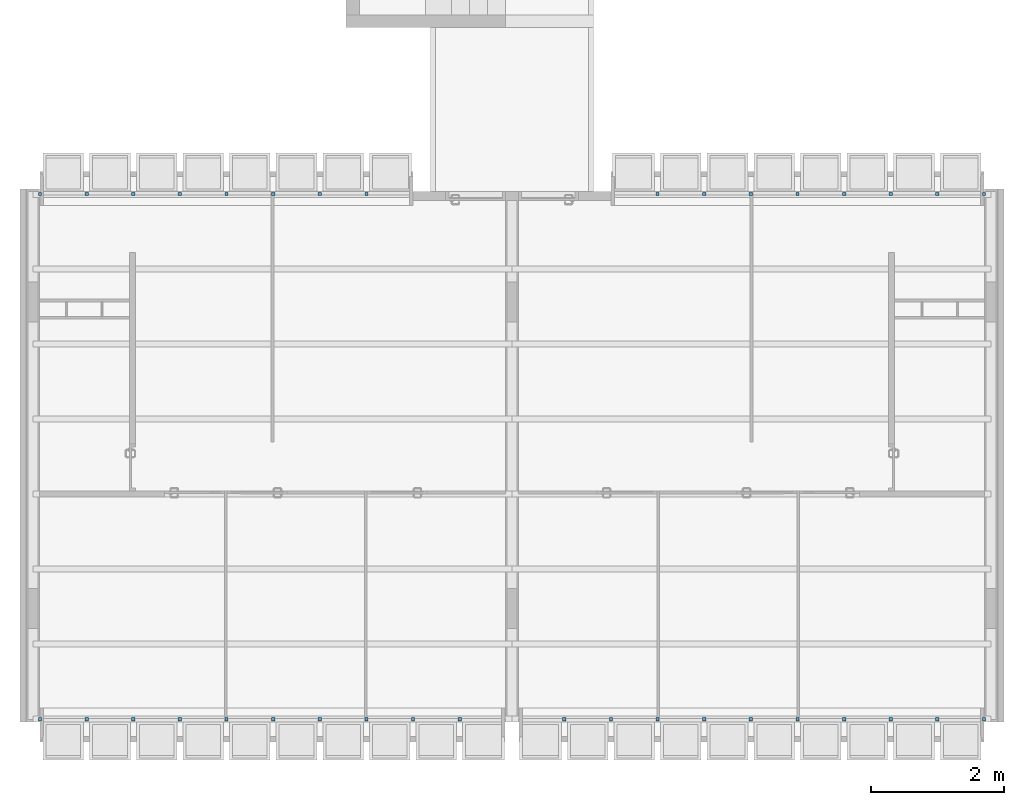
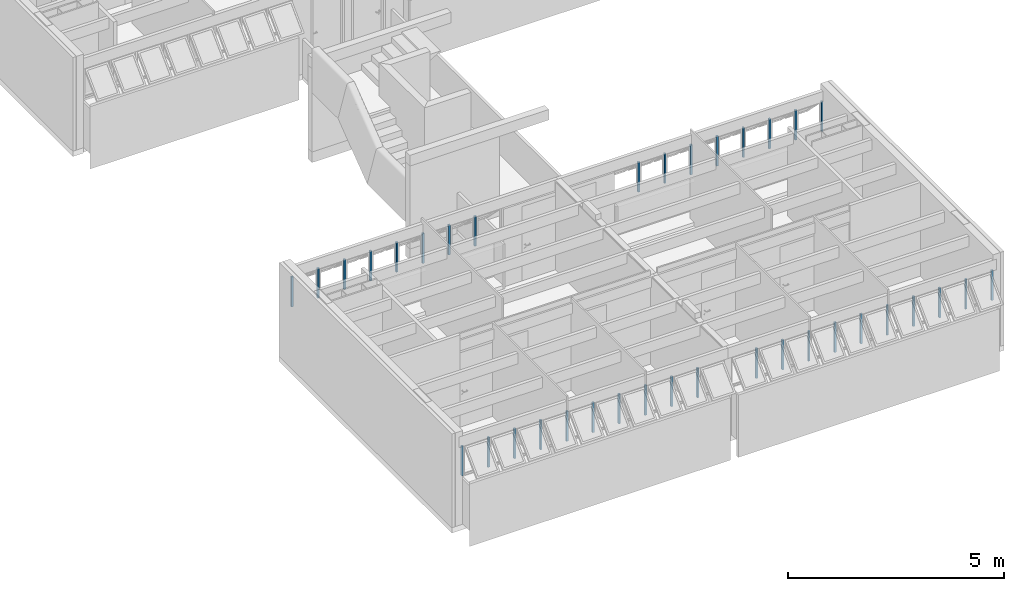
# One storey, part 2 of 37: 36 members, 4 elements without a shape of their own.
"""IFC2X3 building model written with IfcOpenShell, lengths in millimetres."""

import ifcopenshell
import ifcopenshell.guid

model = None  # the IFC model being written
_history = None  # IfcOwnerHistory: only IFC2X3 demands one
_inside = {}  # id of a spatial element -> (the spatial element, [elements in it])
_under = {}  # id of a project, library or spatial element -> (it, [spatial elements below it])
_declared = {}  # id of a project -> (the project, [libraries it declares])
_typed = {}  # id of a type object -> (the type object, [elements of that type])
_made_of = {}  # id of a material, layer set ... -> (it, [elements and type objects made of it])


def new_model(schema):
    """Start an empty IFC model of exactly this schema.

    Asked for "IFC4X3", IfcOpenShell would pick the latest addendum, in which some entities
    have other attributes; the version numbers below select the first issue.
    IFC2X3 requires an IfcOwnerHistory on every rooted entity: one is made here for all.
    """
    global model, _history
    if schema == "IFC4X3":
        model = ifcopenshell.file(schema_version=(4, 3, 0, 0))
    else:
        model = ifcopenshell.file(schema=schema)
    _inside.clear()
    _under.clear()
    _declared.clear()
    _typed.clear()
    _made_of.clear()
    _history = None
    if model.schema == "IFC2X3":
        org = make("IfcOrganization", Name="unknown")
        user = make(
            "IfcPersonAndOrganization",
            ThePerson=make("IfcPerson", FamilyName="unknown"),
            TheOrganization=org,
        )
        app = make(
            "IfcApplication",
            ApplicationDeveloper=org,
            Version="unknown",
            ApplicationFullName="unknown",
            ApplicationIdentifier="unknown",
        )
        _history = make(
            "IfcOwnerHistory",
            OwningUser=user,
            OwningApplication=app,
            ChangeAction="ADDED",
            CreationDate=0,
        )
    return model


def make(cls, **values):
    """One entity of the class cls with the attributes given. An attribute that is None is left unset."""
    return model.create_entity(
        cls, **{name: value for name, value in values.items() if value is not None}
    )


def entity(cls, *values):
    """Any entity or typed value of the class cls, its attributes in the order of the schema. None: left unset."""
    e = model.create_entity(cls)
    for i, value in enumerate(values):
        if value is not None:
            e[i] = value
    return e


def rooted(cls, **values):
    """An entity with a GlobalId (a new one), such as an element, a storey or a relation."""
    return make(cls, GlobalId=ifcopenshell.guid.new(), OwnerHistory=_history, **values)


def si_unit(unit_type, name, prefix=None):
    """IfcSIUnit, for example si_unit("LENGTHUNIT", "METRE", prefix="MILLI")."""
    return make("IfcSIUnit", UnitType=unit_type, Prefix=prefix, Name=name)


def converted_unit(unit_type, name, factor, base, dimensions=None, offset=None):
    """IfcConversionBasedUnit, such as the inch: factor (a typed value) times the base unit."""
    return make(
        "IfcConversionBasedUnit"
        if offset is None
        else "IfcConversionBasedUnitWithOffset",
        ConversionOffset=offset,
        Dimensions=None
        if dimensions is None
        else entity("IfcDimensionalExponents", *dimensions),
        UnitType=unit_type,
        Name=name,
        ConversionFactor=make(
            "IfcMeasureWithUnit", ValueComponent=factor, UnitComponent=base
        ),
    )


def derived_unit(unit_type, elements):
    """IfcDerivedUnit: a product of units, each with its exponent."""
    return make(
        "IfcDerivedUnit",
        Elements=[
            make("IfcDerivedUnitElement", Unit=unit, Exponent=power)
            for unit, power in elements
        ],
        UnitType=unit_type,
    )


def money_unit(currency):
    """IfcMonetaryUnit."""
    return make("IfcMonetaryUnit", Currency=currency)


def assignment(units):
    """IfcUnitAssignment: the units of a project."""
    return None if units is None else make("IfcUnitAssignment", Units=units)


def point(xyz):
    """IfcCartesianPoint."""
    return None if xyz is None else make("IfcCartesianPoint", Coordinates=xyz)


def direction(xyz):
    """IfcDirection."""
    return None if xyz is None else make("IfcDirection", DirectionRatios=xyz)


def frame(location, z_axis=None, x_axis=None):
    """IfcAxis2Placement3D, a coordinate frame: its origin and axes. An axis left out is left unset."""
    return make(
        "IfcAxis2Placement3D",
        Location=point(location),
        Axis=direction(z_axis),
        RefDirection=direction(x_axis),
    )


def origin_with_axes():
    """The frame at (0, 0, 0) with the z axis (0, 0, 1) and the x axis (1, 0, 0) written out."""
    return frame((0.0, 0.0, 0.0), z_axis=(0.0, 0.0, 1.0), x_axis=(1.0, 0.0, 0.0))


def place(relative_to, where):
    """IfcLocalPlacement: puts the frame where relative to a parent placement (None: the world)."""
    return make(
        "IfcLocalPlacement", PlacementRelTo=relative_to, RelativePlacement=where
    )


def context(
    kind, dimensions, precision=None, world=None, true_north=None, identifier=None
):
    """IfcGeometricRepresentationContext, for example the 3D "Model" context."""
    return make(
        "IfcGeometricRepresentationContext",
        ContextIdentifier=identifier,
        ContextType=kind,
        CoordinateSpaceDimension=dimensions,
        Precision=precision,
        WorldCoordinateSystem=world,
        TrueNorth=true_north,
    )


def subcontext(parent, identifier, kind, view, scale=None):
    """IfcGeometricRepresentationSubContext, for example "Body" below "Model"."""
    return make(
        "IfcGeometricRepresentationSubContext",
        ContextIdentifier=identifier,
        ContextType=kind,
        ParentContext=parent,
        TargetScale=scale,
        TargetView=view,
    )


def project(units=None, contexts=None):
    """IfcProject with its units and contexts."""
    return rooted(
        "IfcProject",
        Name="project",
        RepresentationContexts=contexts,
        UnitsInContext=assignment(units),
    )


def spatial(cls, under=None, at=None, **own):
    """A site, building, storey or space (cls), placed at a placement, below another one or the project."""
    s = rooted(cls, ObjectPlacement=at, **own)
    if under is not None:
        _under.setdefault(under.id(), (under, []))[1].append(s)
    return s


def polyline(points):
    """IfcPolyline through the points."""
    return make("IfcPolyline", Points=[point(p) for p in points])


def outline(outer, holes=None, kind="AREA"):
    """IfcArbitraryClosedProfileDef: a profile drawn as a closed curve; with holes, ...WithVoids."""
    if holes is None:
        return make("IfcArbitraryClosedProfileDef", ProfileType=kind, OuterCurve=outer)
    return make(
        "IfcArbitraryProfileDefWithVoids",
        ProfileType=kind,
        OuterCurve=outer,
        InnerCurves=holes,
    )


def extrude(swept, where, along, depth):
    """IfcExtrudedAreaSolid: the profile swept, set in the frame where, extruded along a direction by depth."""
    return make(
        "IfcExtrudedAreaSolid",
        SweptArea=swept,
        Position=where,
        ExtrudedDirection=direction(along),
        Depth=depth,
    )


def shape(context_of_items, identifier, shape_type, items):
    """IfcShapeRepresentation: the items that make up one representation, for example the "Body"."""
    return make(
        "IfcShapeRepresentation",
        ContextOfItems=context_of_items,
        RepresentationIdentifier=identifier,
        RepresentationType=shape_type,
        Items=items,
    )


def material(Name=None, Category=None):
    """IfcMaterial."""
    return make("IfcMaterial", Name=Name, Category=Category)


def made_of(thing, what):
    """Note that an element or type object is made of a material, layer set ...; save() writes the relation."""
    if what is not None:
        _made_of.setdefault(what.id(), (what, []))[1].append(thing)
    return thing


def type_object(cls, material=None, **own):
    """A type object (cls), such as IfcWallType, which elements share."""
    return made_of(rooted(cls, **own), material)


def element(
    cls,
    number,
    at=None,
    inside=None,
    cuts=None,
    type_object=None,
    material=None,
    context=None,
    identifier="Body",
    shape_type=None,
    held_by="IfcProductDefinitionShape",
    body=None,
    shapes=None,
    **own,
):
    """One element of the class cls, such as IfcWall. Its Tag is "e" and its number.

    at: its placement. inside: the storey or other place that contains it. cuts: it is an
    opening in that element (IfcRelVoidsElement). A single representation is given by context,
    identifier, shape_type and body (its items); several are given by shapes. held_by: the class
    of the entity that holds the representations. save() writes the other relations.
    """
    e = rooted(cls, Tag="e%d" % number, ObjectPlacement=at, **own)
    if body is not None:
        shapes = [shape(context, identifier, shape_type, body)]
    if shapes is not None:
        e.Representation = make(held_by, Representations=shapes)
    if inside is not None:
        _inside.setdefault(inside.id(), (inside, []))[1].append(e)
    if cuts is not None:
        rooted(
            "IfcRelVoidsElement", RelatingBuildingElement=cuts, RelatedOpeningElement=e
        )
    if type_object is not None:
        _typed.setdefault(type_object.id(), (type_object, []))[1].append(e)
    return made_of(e, material)


def aggregate(whole, parts):
    """IfcRelAggregates: a whole, such as a stair, and the parts it consists of."""
    return rooted("IfcRelAggregates", RelatingObject=whole, RelatedObjects=parts)


def save(model, path):
    """Write the relations noted so far, then the file.

    IfcRelAggregates (storeys below a building ...), IfcRelContainedInSpatialStructure (elements
    in a storey), IfcRelDefinesByType, IfcRelAssociatesMaterial and IfcRelDeclares: one each for
    every whole, place, type object, material and project.
    """
    for whole, parts in _under.values():
        aggregate(whole, parts)
    for where, things in _inside.values():
        rooted(
            "IfcRelContainedInSpatialStructure",
            RelatedElements=things,
            RelatingStructure=where,
        )
    for kind, things in _typed.values():
        rooted("IfcRelDefinesByType", RelatedObjects=things, RelatingType=kind)
    for what, things in _made_of.values():
        rooted("IfcRelAssociatesMaterial", RelatedObjects=things, RelatingMaterial=what)
    for by, libraries in _declared.values():
        rooted("IfcRelDeclares", RelatingContext=by, RelatedDefinitions=libraries)
    model.write(path)


model = new_model("IFC2X3")

# Units and contexts
model_context = context("Model", 3, precision=0.01, world=origin_with_axes(), true_north=direction((0.0, 1.0)))
body_context = subcontext(model_context, "Body", "Model", "MODEL_VIEW")
ifc_project = project(units=[si_unit("LENGTHUNIT", "METRE", prefix="MILLI"), si_unit("AREAUNIT", "SQUARE_METRE"), si_unit("VOLUMEUNIT", "CUBIC_METRE"), converted_unit("PLANEANGLEUNIT", "DEGREE", entity("IfcPlaneAngleMeasure", 0.0174532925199), si_unit("PLANEANGLEUNIT", "RADIAN"), dimensions=[0, 0, 0, 0, 0, 0, 0]), money_unit("USD"), converted_unit("TIMEUNIT", "Year", entity("IfcTimeMeasure", 31556926.0), si_unit("TIMEUNIT", "SECOND"), dimensions=[0, 0, 1, 0, 0, 0, 0]), si_unit("MASSUNIT", "GRAM", prefix="KILO"), si_unit("THERMODYNAMICTEMPERATUREUNIT", "DEGREE_CELSIUS"), si_unit("LUMINOUSINTENSITYUNIT", "LUMEN"), si_unit("ENERGYUNIT", "JOULE", prefix="MEGA"), derived_unit("THERMALCONDUCTANCEUNIT", [(si_unit("POWERUNIT", "WATT"), 1), (si_unit("LENGTHUNIT", "METRE"), -1), (si_unit("THERMODYNAMICTEMPERATUREUNIT", "KELVIN"), -1)]), derived_unit("SPECIFICHEATCAPACITYUNIT", [(si_unit("ENERGYUNIT", "JOULE"), 1), (si_unit("MASSUNIT", "GRAM", prefix="KILO"), -1), (si_unit("THERMODYNAMICTEMPERATUREUNIT", "KELVIN"), -1)]), derived_unit("MASSDENSITYUNIT", [(si_unit("MASSUNIT", "GRAM", prefix="KILO"), 1), (si_unit("VOLUMEUNIT", "CUBIC_METRE"), -1)])], contexts=[model_context])

# Site, building, storey
site_placement = place(None, origin_with_axes())
site = spatial("IfcSite", under=ifc_project, at=site_placement, Name="Local", CompositionType="ELEMENT")
building_placement = place(site_placement, origin_with_axes())
building = spatial("IfcBuilding", under=site, at=building_placement, Name="Construção", CompositionType="ELEMENT")
storey_placement = place(building_placement, origin_with_axes())
storey = spatial("IfcBuildingStorey", under=building, at=storey_placement, Name="Primeiro Pavimento", CompositionType="ELEMENT", Elevation=0.0)

# Window, members
window_style = type_object("IfcWindowStyle", Name="Tipo de Parede Cortina", ConstructionType="NOTDEFINED", OperationType="NOTDEFINED", ParameterTakesPrecedence=False, Sizeable=False)
window_1_placement = place(storey_placement, frame((12020.0, 8250.0, 1355.00007107), z_axis=(0.0, 0.0, 1.0), x_axis=(1.0, 0.0, 0.0)))
window_1 = element("IfcWindow", 1, at=window_1_placement, inside=storey, type_object=window_style, Name="APTO2-JANELA-000")
ifc_material = material(Name="Alumínio")
member_type = type_object("IfcMemberType", Name="Montante 50 x 50", PredefinedType="MULLION")
member_1_placement = place(window_1_placement, frame((-1050.0, 0.0, 0.0), z_axis=(0.0, 0.0, 1.0), x_axis=(1.0, 0.0, 0.0)))
member_1 = element("IfcMember", 2, at=member_1_placement, type_object=member_type, material=ifc_material, Name="APTO2-PC-Est-Mnt-430", context=body_context, shape_type="SweptSolid", body=[
    extrude(outline(polyline([(25.0, -50.0), (25.0, 0.0), (-25.0, 0.0), (-25.0, -50.0), (25.0, -50.0)])), origin_with_axes(), (0.0, 0.0, 1.0), 844.999891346),
])
member_2_placement = place(window_1_placement, frame((-1750.0, 0.0, 0.0), z_axis=(0.0, 0.0, 1.0), x_axis=(1.0, 0.0, 0.0)))
member_2 = element("IfcMember", 3, at=member_2_placement, type_object=member_type, material=ifc_material, Name="APTO2-PC-Est-Mnt-485", context=body_context, shape_type="SweptSolid", body=[
    extrude(outline(polyline([(25.0, -50.0), (25.0, 0.0), (-25.0, 0.0), (-25.0, -50.0), (25.0, -50.0)])), origin_with_axes(), (0.0, 0.0, 1.0), 844.999891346),
])
member_3_placement = place(window_1_placement, frame((-2450.0, 0.0, 0.0), z_axis=(0.0, 0.0, 1.0), x_axis=(1.0, 0.0, 0.0)))
member_3 = element("IfcMember", 4, at=member_3_placement, type_object=member_type, material=ifc_material, Name="APTO2-PC-Est-Mnt-486", context=body_context, shape_type="SweptSolid", body=[
    extrude(outline(polyline([(25.0, -50.0), (25.0, 0.0), (-25.0, 0.0), (-25.0, -50.0), (25.0, -50.0)])), origin_with_axes(), (0.0, 0.0, 1.0), 844.999891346),
])
member_4_placement = place(window_1_placement, frame((350.0, 0.0, 0.0), z_axis=(0.0, 0.0, 1.0), x_axis=(1.0, 0.0, 0.0)))
member_4 = element("IfcMember", 5, at=member_4_placement, type_object=member_type, material=ifc_material, Name="APTO2-PC-Est-Mnt-428", context=body_context, shape_type="SweptSolid", body=[
    extrude(outline(polyline([(25.0, -50.0), (25.0, 0.0), (-25.0, 0.0), (-25.0, -50.0), (25.0, -50.0)])), origin_with_axes(), (0.0, 0.0, 1.0), 844.999891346),
])
member_5_placement = place(window_1_placement, frame((2450.0, 0.0, 0.0), z_axis=(0.0, 0.0, 1.0), x_axis=(1.0, 0.0, 0.0)))
member_5 = element("IfcMember", 6, at=member_5_placement, type_object=member_type, material=ifc_material, Name="APTO2-PC-Est-Mnt-560", context=body_context, shape_type="SweptSolid", body=[
    extrude(outline(polyline([(25.0, -50.0), (25.0, 0.0), (-25.0, 0.0), (-25.0, -50.0), (25.0, -50.0)])), origin_with_axes(), (0.0, 0.0, 1.0), 844.999891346),
])
member_6_placement = place(window_1_placement, frame((-350.0, 0.0, 0.0), z_axis=(0.0, 0.0, 1.0), x_axis=(1.0, 0.0, 0.0)))
member_6 = element("IfcMember", 7, at=member_6_placement, type_object=member_type, material=ifc_material, Name="APTO2-PC-Est-Mnt-429", context=body_context, shape_type="SweptSolid", body=[
    extrude(outline(polyline([(25.0, -50.0), (25.0, 0.0), (-25.0, 0.0), (-25.0, -50.0), (25.0, -50.0)])), origin_with_axes(), (0.0, 0.0, 1.0), 844.999891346),
])
member_7_placement = place(window_1_placement, frame((1050.0, 0.0, 0.0), z_axis=(0.0, 0.0, 1.0), x_axis=(1.0, 0.0, 0.0)))
member_7 = element("IfcMember", 8, at=member_7_placement, type_object=member_type, material=ifc_material, Name="APTO2-PC-Est-Mnt-427", context=body_context, shape_type="SweptSolid", body=[
    extrude(outline(polyline([(25.0, -50.0), (25.0, 0.0), (-25.0, 0.0), (-25.0, -50.0), (25.0, -50.0)])), origin_with_axes(), (0.0, 0.0, 1.0), 844.999891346),
])
member_8_placement = place(window_1_placement, frame((1750.0, 0.0, 0.0), z_axis=(0.0, 0.0, 1.0), x_axis=(1.0, 0.0, 0.0)))
member_8 = element("IfcMember", 9, at=member_8_placement, type_object=member_type, material=ifc_material, Name="APTO2-PC-Est-Mnt-426", context=body_context, shape_type="SweptSolid", body=[
    extrude(outline(polyline([(25.0, -50.0), (25.0, 0.0), (-25.0, 0.0), (-25.0, -50.0), (25.0, -50.0)])), origin_with_axes(), (0.0, 0.0, 1.0), 844.999891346),
])
aggregate(window_1, [member_1, member_2, member_3, member_4, member_5, member_6, member_7, member_8])

window_2_placement = place(storey_placement, frame((8520.0, 315.020977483, 1355.02054151), z_axis=(0.0, 0.0, 1.0), x_axis=(1.0, 0.0, 0.0)))
window_2 = element("IfcWindow", 10, at=window_2_placement, inside=storey, type_object=window_style, Name="APTO2-JANELA-001")
member_9_placement = place(window_2_placement, frame((2450.0, 0.0, 0.0), z_axis=(0.0, 0.0, 1.0), x_axis=(1.0, 0.0, 0.0)))
member_9 = element("IfcMember", 11, at=member_9_placement, type_object=member_type, material=ifc_material, Name="APTO2-PC-Est-Mnt-430", context=body_context, shape_type="SweptSolid", body=[
    extrude(outline(polyline([(25.0, 50.0), (-25.0, 50.0), (-25.0, 0.0), (25.0, 0.0), (25.0, 50.0)])), origin_with_axes(), (0.0, 0.0, 1.0), 844.999928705),
])
member_10_placement = place(window_2_placement, frame((1750.0, 0.0, 0.0), z_axis=(0.0, 0.0, 1.0), x_axis=(1.0, 0.0, 0.0)))
member_10 = element("IfcMember", 12, at=member_10_placement, type_object=member_type, material=ifc_material, Name="APTO2-PC-Est-Mnt-485", context=body_context, shape_type="SweptSolid", body=[
    extrude(outline(polyline([(25.0, 50.0), (-25.0, 50.0), (-25.0, 0.0), (25.0, 0.0), (25.0, 50.0)])), origin_with_axes(), (0.0, 0.0, 1.0), 844.999928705),
])
member_11_placement = place(window_2_placement, frame((1050.0, 0.0, 0.0), z_axis=(0.0, 0.0, 1.0), x_axis=(1.0, 0.0, 0.0)))
member_11 = element("IfcMember", 13, at=member_11_placement, type_object=member_type, material=ifc_material, Name="APTO2-PC-Est-Mnt-486", context=body_context, shape_type="SweptSolid", body=[
    extrude(outline(polyline([(25.0, 50.0), (-25.0, 50.0), (-25.0, 0.0), (25.0, 0.0), (25.0, 50.0)])), origin_with_axes(), (0.0, 0.0, 1.0), 844.999928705),
])
member_12_placement = place(window_2_placement, frame((3850.0, 0.0, 0.0), z_axis=(0.0, 0.0, 1.0), x_axis=(1.0, 0.0, 0.0)))
member_12 = element("IfcMember", 14, at=member_12_placement, type_object=member_type, material=ifc_material, Name="APTO2-PC-Est-Mnt-428", context=body_context, shape_type="SweptSolid", body=[
    extrude(outline(polyline([(25.0, 50.0), (-25.0, 50.0), (-25.0, 0.0), (25.0, 0.0), (25.0, 50.0)])), origin_with_axes(), (0.0, 0.0, 1.0), 844.999928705),
])
member_13_placement = place(window_2_placement, frame((350.0, 0.0, 0.0), z_axis=(0.0, 0.0, 1.0), x_axis=(1.0, 0.0, 0.0)))
member_13 = element("IfcMember", 15, at=member_13_placement, type_object=member_type, material=ifc_material, Name="APTO2-PC-Est-Mnt-487", context=body_context, shape_type="SweptSolid", body=[
    extrude(outline(polyline([(25.0, 50.0), (-25.0, 50.0), (-25.0, 0.0), (25.0, 0.0), (25.0, 50.0)])), origin_with_axes(), (0.0, 0.0, 1.0), 844.999928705),
])
member_14_placement = place(window_2_placement, frame((-350.0, 0.0, 0.0), z_axis=(0.0, 0.0, 1.0), x_axis=(1.0, 0.0, 0.0)))
member_14 = element("IfcMember", 16, at=member_14_placement, type_object=member_type, material=ifc_material, Name="APTO2-PC-Est-Mnt-488", context=body_context, shape_type="SweptSolid", body=[
    extrude(outline(polyline([(25.0, 50.0), (-25.0, 50.0), (-25.0, 0.0), (25.0, 0.0), (25.0, 50.0)])), origin_with_axes(), (0.0, 0.0, 1.0), 844.999928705),
])
member_15_placement = place(window_2_placement, frame((5950.0, 0.0, 0.0), z_axis=(0.0, 0.0, 1.0), x_axis=(1.0, 0.0, 0.0)))
member_15 = element("IfcMember", 17, at=member_15_placement, type_object=member_type, material=ifc_material, Name="APTO2-PC-Est-Mnt-522", context=body_context, shape_type="SweptSolid", body=[
    extrude(outline(polyline([(25.0, 50.0), (-25.0, 50.0), (-25.0, 0.0), (25.0, 0.0), (25.0, 50.0)])), origin_with_axes(), (0.0, 0.0, 1.0), 844.999928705),
])
member_16_placement = place(window_2_placement, frame((3150.0, 0.0, 0.0), z_axis=(0.0, 0.0, 1.0), x_axis=(1.0, 0.0, 0.0)))
member_16 = element("IfcMember", 18, at=member_16_placement, type_object=member_type, material=ifc_material, Name="APTO2-PC-Est-Mnt-429", context=body_context, shape_type="SweptSolid", body=[
    extrude(outline(polyline([(25.0, 50.0), (-25.0, 50.0), (-25.0, 0.0), (25.0, 0.0), (25.0, 50.0)])), origin_with_axes(), (0.0, 0.0, 1.0), 844.999928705),
])
member_17_placement = place(window_2_placement, frame((4550.0, 0.0, 0.0), z_axis=(0.0, 0.0, 1.0), x_axis=(1.0, 0.0, 0.0)))
member_17 = element("IfcMember", 19, at=member_17_placement, type_object=member_type, material=ifc_material, Name="APTO2-PC-Est-Mnt-427", context=body_context, shape_type="SweptSolid", body=[
    extrude(outline(polyline([(25.0, 50.0), (-25.0, 50.0), (-25.0, 0.0), (25.0, 0.0), (25.0, 50.0)])), origin_with_axes(), (0.0, 0.0, 1.0), 844.999928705),
])
member_18_placement = place(window_2_placement, frame((5250.0, 0.0, 0.0), z_axis=(0.0, 0.0, 1.0), x_axis=(1.0, 0.0, 0.0)))
member_18 = element("IfcMember", 20, at=member_18_placement, type_object=member_type, material=ifc_material, Name="APTO2-PC-Est-Mnt-426", context=body_context, shape_type="SweptSolid", body=[
    extrude(outline(polyline([(25.0, 50.0), (-25.0, 50.0), (-25.0, 0.0), (25.0, 0.0), (25.0, 50.0)])), origin_with_axes(), (0.0, 0.0, 1.0), 844.999928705),
])
aggregate(window_2, [member_9, member_10, member_11, member_12, member_13, member_14, member_15, member_16, member_17, member_18])

window_3_placement = place(storey_placement, frame((294.999984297, 315.020977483, 1355.02054151), z_axis=(0.0, 0.0, 1.0), x_axis=(1.0, 0.0, 0.0)))
window_3 = element("IfcWindow", 21, at=window_3_placement, inside=storey, type_object=window_style, Name="APTO1-JANELA-001")
member_19_placement = place(window_3_placement, frame((705.000015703, 0.0, 0.0), z_axis=(0.0, 0.0, 1.0), x_axis=(-1.0, 0.0, 0.0)))
member_19 = element("IfcMember", 22, at=member_19_placement, type_object=member_type, material=ifc_material, Name="APTO1-PC-Est-Mnt-426", context=body_context, shape_type="SweptSolid", body=[
    extrude(outline(polyline([(-25.0, 50.0), (-25.0, 0.0), (25.0, 0.0), (25.0, 50.0), (-25.0, 50.0)])), frame((0.0, 0.0, 0.0), z_axis=(0.0, 0.0, 1.0), x_axis=(-1.0, 0.0, 0.0)), (0.0, 0.0, 1.0), 844.999891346),
])
member_20_placement = place(window_3_placement, frame((1405.0000157, 0.0, 0.0), z_axis=(0.0, 0.0, 1.0), x_axis=(-1.0, 0.0, 0.0)))
member_20 = element("IfcMember", 23, at=member_20_placement, type_object=member_type, material=ifc_material, Name="APTO1-PC-Est-Mnt-427", context=body_context, shape_type="SweptSolid", body=[
    extrude(outline(polyline([(-25.0, 50.0), (-25.0, 0.0), (25.0, 0.0), (25.0, 50.0), (-25.0, 50.0)])), frame((0.0, 0.0, 0.0), z_axis=(0.0, 0.0, 1.0), x_axis=(-1.0, 0.0, 0.0)), (0.0, 0.0, 1.0), 844.999891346),
])
member_21_placement = place(window_3_placement, frame((2805.0000157, 0.0, 0.0), z_axis=(0.0, 0.0, 1.0), x_axis=(-1.0, 0.0, 0.0)))
member_21 = element("IfcMember", 24, at=member_21_placement, type_object=member_type, material=ifc_material, Name="APTO1-PC-Est-Mnt-429", context=body_context, shape_type="SweptSolid", body=[
    extrude(outline(polyline([(-25.0, 50.0), (-25.0, 0.0), (25.0, 0.0), (25.0, 50.0), (-25.0, 50.0)])), frame((0.0, 0.0, 0.0), z_axis=(0.0, 0.0, 1.0), x_axis=(-1.0, 0.0, 0.0)), (0.0, 0.0, 1.0), 844.999891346),
])
member_22_placement = place(window_3_placement, frame((5.00001570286, 0.0, 0.0), z_axis=(0.0, 0.0, 1.0), x_axis=(-1.0, 0.0, 0.0)))
member_22 = element("IfcMember", 25, at=member_22_placement, type_object=member_type, material=ifc_material, Name="APTO1-PC-Est-Mnt-522", context=body_context, shape_type="SweptSolid", body=[
    extrude(outline(polyline([(-25.0, 50.0), (-25.0, 0.0), (25.0, 0.0), (25.0, 50.0), (-25.0, 50.0)])), frame((0.0, 0.0, 0.0), z_axis=(0.0, 0.0, 1.0), x_axis=(-1.0, 0.0, 0.0)), (0.0, 0.0, 1.0), 844.999891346),
])
member_23_placement = place(window_3_placement, frame((6305.0000157, 0.0, 0.0), z_axis=(0.0, 0.0, 1.0), x_axis=(-1.0, 0.0, 0.0)))
member_23 = element("IfcMember", 26, at=member_23_placement, type_object=member_type, material=ifc_material, Name="APTO1-PC-Est-Mnt-488", context=body_context, shape_type="SweptSolid", body=[
    extrude(outline(polyline([(-25.0, 50.0), (-25.0, 0.0), (25.0, 0.0), (25.0, 50.0), (-25.0, 50.0)])), frame((0.0, 0.0, 0.0), z_axis=(0.0, 0.0, 1.0), x_axis=(-1.0, 0.0, 0.0)), (0.0, 0.0, 1.0), 844.999891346),
])
member_24_placement = place(window_3_placement, frame((5605.0000157, 0.0, 0.0), z_axis=(0.0, 0.0, 1.0), x_axis=(-1.0, 0.0, 0.0)))
member_24 = element("IfcMember", 27, at=member_24_placement, type_object=member_type, material=ifc_material, Name="APTO1-PC-Est-Mnt-487", context=body_context, shape_type="SweptSolid", body=[
    extrude(outline(polyline([(-25.0, 50.0), (-25.0, 0.0), (25.0, 0.0), (25.0, 50.0), (-25.0, 50.0)])), frame((0.0, 0.0, 0.0), z_axis=(0.0, 0.0, 1.0), x_axis=(-1.0, 0.0, 0.0)), (0.0, 0.0, 1.0), 844.999891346),
])
member_25_placement = place(window_3_placement, frame((2105.0000157, 0.0, 0.0), z_axis=(0.0, 0.0, 1.0), x_axis=(-1.0, 0.0, 0.0)))
member_25 = element("IfcMember", 28, at=member_25_placement, type_object=member_type, material=ifc_material, Name="APTO1-PC-Est-Mnt-428", context=body_context, shape_type="SweptSolid", body=[
    extrude(outline(polyline([(-25.0, 50.0), (-25.0, 0.0), (25.0, 0.0), (25.0, 50.0), (-25.0, 50.0)])), frame((0.0, 0.0, 0.0), z_axis=(0.0, 0.0, 1.0), x_axis=(-1.0, 0.0, 0.0)), (0.0, 0.0, 1.0), 844.999891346),
])
member_26_placement = place(window_3_placement, frame((4905.0000157, 0.0, 0.0), z_axis=(0.0, 0.0, 1.0), x_axis=(-1.0, 0.0, 0.0)))
member_26 = element("IfcMember", 29, at=member_26_placement, type_object=member_type, material=ifc_material, Name="APTO1-PC-Est-Mnt-486", context=body_context, shape_type="SweptSolid", body=[
    extrude(outline(polyline([(-25.0, 50.0), (-25.0, 0.0), (25.0, 0.0), (25.0, 50.0), (-25.0, 50.0)])), frame((0.0, 0.0, 0.0), z_axis=(0.0, 0.0, 1.0), x_axis=(-1.0, 0.0, 0.0)), (0.0, 0.0, 1.0), 844.999891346),
])
member_27_placement = place(window_3_placement, frame((4205.0000157, 0.0, 0.0), z_axis=(0.0, 0.0, 1.0), x_axis=(-1.0, 0.0, 0.0)))
member_27 = element("IfcMember", 30, at=member_27_placement, type_object=member_type, material=ifc_material, Name="APTO1-PC-Est-Mnt-485", context=body_context, shape_type="SweptSolid", body=[
    extrude(outline(polyline([(-25.0, 50.0), (-25.0, 0.0), (25.0, 0.0), (25.0, 50.0), (-25.0, 50.0)])), frame((0.0, 0.0, 0.0), z_axis=(0.0, 0.0, 1.0), x_axis=(-1.0, 0.0, 0.0)), (0.0, 0.0, 1.0), 844.999891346),
])
member_28_placement = place(window_3_placement, frame((3505.0000157, 0.0, 0.0), z_axis=(0.0, 0.0, 1.0), x_axis=(-1.0, 0.0, 0.0)))
member_28 = element("IfcMember", 31, at=member_28_placement, type_object=member_type, material=ifc_material, Name="APTO1-PC-Est-Mnt-430", context=body_context, shape_type="SweptSolid", body=[
    extrude(outline(polyline([(-25.0, 50.0), (-25.0, 0.0), (25.0, 0.0), (25.0, 50.0), (-25.0, 50.0)])), frame((0.0, 0.0, 0.0), z_axis=(0.0, 0.0, 1.0), x_axis=(-1.0, 0.0, 0.0)), (0.0, 0.0, 1.0), 844.999891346),
])
aggregate(window_3, [member_19, member_20, member_21, member_22, member_23, member_24, member_25, member_26, member_27, member_28])

window_4_placement = place(storey_placement, frame((294.99998404, 8250.0, 1355.00007107), z_axis=(0.0, 0.0, 1.0), x_axis=(1.0, 0.0, 0.0)))
window_4 = element("IfcWindow", 32, at=window_4_placement, inside=storey, type_object=window_style, Name="APTO1-JANELA-000")
member_29_placement = place(window_4_placement, frame((705.00001596, 0.0, 0.0), z_axis=(0.0, 0.0, 1.0), x_axis=(-1.0, 0.0, 0.0)))
member_29 = element("IfcMember", 33, at=member_29_placement, type_object=member_type, material=ifc_material, Name="APTO1-PC-Est-Mnt-426", context=body_context, shape_type="SweptSolid", body=[
    extrude(outline(polyline([(-25.0, -50.0), (25.0, -50.0), (25.0, 0.0), (-25.0, 0.0), (-25.0, -50.0)])), frame((0.0, 0.0, 0.0), z_axis=(0.0, 0.0, 1.0), x_axis=(-1.0, 0.0, 0.0)), (0.0, 0.0, 1.0), 844.999928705),
])
member_30_placement = place(window_4_placement, frame((1405.00001596, 0.0, 0.0), z_axis=(0.0, 0.0, 1.0), x_axis=(-1.0, 0.0, 0.0)))
member_30 = element("IfcMember", 34, at=member_30_placement, type_object=member_type, material=ifc_material, Name="APTO1-PC-Est-Mnt-427", context=body_context, shape_type="SweptSolid", body=[
    extrude(outline(polyline([(-25.0, -50.0), (25.0, -50.0), (25.0, 0.0), (-25.0, 0.0), (-25.0, -50.0)])), frame((0.0, 0.0, 0.0), z_axis=(0.0, 0.0, 1.0), x_axis=(-1.0, 0.0, 0.0)), (0.0, 0.0, 1.0), 844.999928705),
])
member_31_placement = place(window_4_placement, frame((2805.00001596, 0.0, 0.0), z_axis=(0.0, 0.0, 1.0), x_axis=(-1.0, 0.0, 0.0)))
member_31 = element("IfcMember", 35, at=member_31_placement, type_object=member_type, material=ifc_material, Name="APTO1-PC-Est-Mnt-429", context=body_context, shape_type="SweptSolid", body=[
    extrude(outline(polyline([(-25.0, -50.0), (25.0, -50.0), (25.0, 0.0), (-25.0, 0.0), (-25.0, -50.0)])), frame((0.0, 0.0, 0.0), z_axis=(0.0, 0.0, 1.0), x_axis=(-1.0, 0.0, 0.0)), (0.0, 0.0, 1.0), 844.999928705),
])
member_32_placement = place(window_4_placement, frame((5.00001595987, 0.0, 0.0), z_axis=(0.0, 0.0, 1.0), x_axis=(-1.0, 0.0, 0.0)))
member_32 = element("IfcMember", 36, at=member_32_placement, type_object=member_type, material=ifc_material, Name="APTO1-PC-Est-Mnt-560", context=body_context, shape_type="SweptSolid", body=[
    extrude(outline(polyline([(-25.0, -50.0), (25.0, -50.0), (25.0, 0.0), (-25.0, 0.0), (-25.0, -50.0)])), frame((0.0, 0.0, 0.0), z_axis=(0.0, 0.0, 1.0), x_axis=(-1.0, 0.0, 0.0)), (0.0, 0.0, 1.0), 844.999928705),
])
member_33_placement = place(window_4_placement, frame((2105.00001596, 0.0, 0.0), z_axis=(0.0, 0.0, 1.0), x_axis=(-1.0, 0.0, 0.0)))
member_33 = element("IfcMember", 37, at=member_33_placement, type_object=member_type, material=ifc_material, Name="APTO1-PC-Est-Mnt-428", context=body_context, shape_type="SweptSolid", body=[
    extrude(outline(polyline([(-25.0, -50.0), (25.0, -50.0), (25.0, 0.0), (-25.0, 0.0), (-25.0, -50.0)])), frame((0.0, 0.0, 0.0), z_axis=(0.0, 0.0, 1.0), x_axis=(-1.0, 0.0, 0.0)), (0.0, 0.0, 1.0), 844.999928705),
])
member_34_placement = place(window_4_placement, frame((4905.00001596, 0.0, 0.0), z_axis=(0.0, 0.0, 1.0), x_axis=(-1.0, 0.0, 0.0)))
member_34 = element("IfcMember", 38, at=member_34_placement, type_object=member_type, material=ifc_material, Name="APTO1-PC-Est-Mnt-486", context=body_context, shape_type="SweptSolid", body=[
    extrude(outline(polyline([(-25.0, -50.0), (25.0, -50.0), (25.0, 0.0), (-25.0, 0.0), (-25.0, -50.0)])), frame((0.0, 0.0, 0.0), z_axis=(0.0, 0.0, 1.0), x_axis=(-1.0, 0.0, 0.0)), (0.0, 0.0, 1.0), 844.999928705),
])
member_35_placement = place(window_4_placement, frame((4205.00001596, 0.0, 0.0), z_axis=(0.0, 0.0, 1.0), x_axis=(-1.0, 0.0, 0.0)))
member_35 = element("IfcMember", 39, at=member_35_placement, type_object=member_type, material=ifc_material, Name="APTO1-PC-Est-Mnt-485", context=body_context, shape_type="SweptSolid", body=[
    extrude(outline(polyline([(-25.0, -50.0), (25.0, -50.0), (25.0, 0.0), (-25.0, 0.0), (-25.0, -50.0)])), frame((0.0, 0.0, 0.0), z_axis=(0.0, 0.0, 1.0), x_axis=(-1.0, 0.0, 0.0)), (0.0, 0.0, 1.0), 844.999928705),
])
member_36_placement = place(window_4_placement, frame((3505.00001596, 0.0, 0.0), z_axis=(0.0, 0.0, 1.0), x_axis=(-1.0, 0.0, 0.0)))
member_36 = element("IfcMember", 40, at=member_36_placement, type_object=member_type, material=ifc_material, Name="APTO1-PC-Est-Mnt-430", context=body_context, shape_type="SweptSolid", body=[
    extrude(outline(polyline([(-25.0, -50.0), (25.0, -50.0), (25.0, 0.0), (-25.0, 0.0), (-25.0, -50.0)])), frame((0.0, 0.0, 0.0), z_axis=(0.0, 0.0, 1.0), x_axis=(-1.0, 0.0, 0.0)), (0.0, 0.0, 1.0), 844.999928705),
])
aggregate(window_4, [member_29, member_30, member_31, member_32, member_33, member_34, member_35, member_36])

save(model, "model.ifc")
